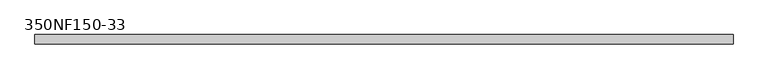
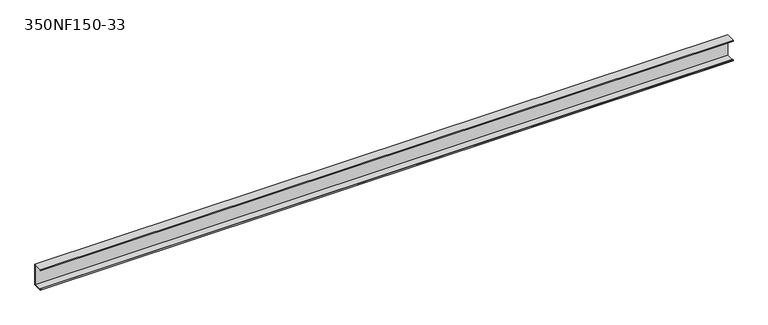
"""IFC4 building model written with IfcOpenShell, lengths in millimetres: beam geometry, BIMSF-SSMA-S : 350NF150-33."""

from ifc_helpers import new_model, si_unit, frame, origin, place, context, project, spatial, polyline, outline, extrude, source, transform, mapped, element, save


def beam_350nf150_33_3de24a85(model_context):
    return source(origin(), model_context, "Body", "SweptSolid", [
        extrude(outline(polyline([(19.05, 44.45), (19.05, -44.45), (-19.05, -44.45), (-19.05, -39.6748), (-18.1676842, -39.6748), (-18.1676842, -43.5676842), (18.1676842, -43.5676842), (18.1676842, 43.5676842), (-18.1676842, 43.5676842), (-18.1676842, 39.6748), (-19.05, 39.6748), (-19.05, 44.45), (19.05, 44.45)])), frame((-1426.7569193, 0.0, 0.0), z_axis=(1.0, 0.0, 0.0), x_axis=(0.0, 1.0, 0.0)), (0.0, 0.0, 1.0), 2853.5138386),
    ])


if __name__ == "__main__":
    model = new_model("IFC4")
    model_context = context("Model", 3, world=origin())
    ifc_project = project(units=[si_unit("LENGTHUNIT", "METRE", prefix="MILLI")], contexts=[model_context])
    site = spatial("IfcSite", under=ifc_project)
    building = spatial("IfcBuilding", under=site)
    placement = place(None, origin())
    beam_350nf150_33_shape = beam_350nf150_33_3de24a85(model_context)
    element("IfcBeam", 1, ObjectType="BIMSF-SSMA-S : 350NF150-33", at=placement, inside=building, context=model_context, shape_type="MappedRepresentation", body=[
        mapped(beam_350nf150_33_shape, transform((0.0, 0.0, 0.0), x_axis=(1.0, 0.0, 0.0), y_axis=(0.0, 1.0, 0.0), z_axis=(0.0, 0.0, 1.0))),
    ])
    save(model, "model.ifc")
